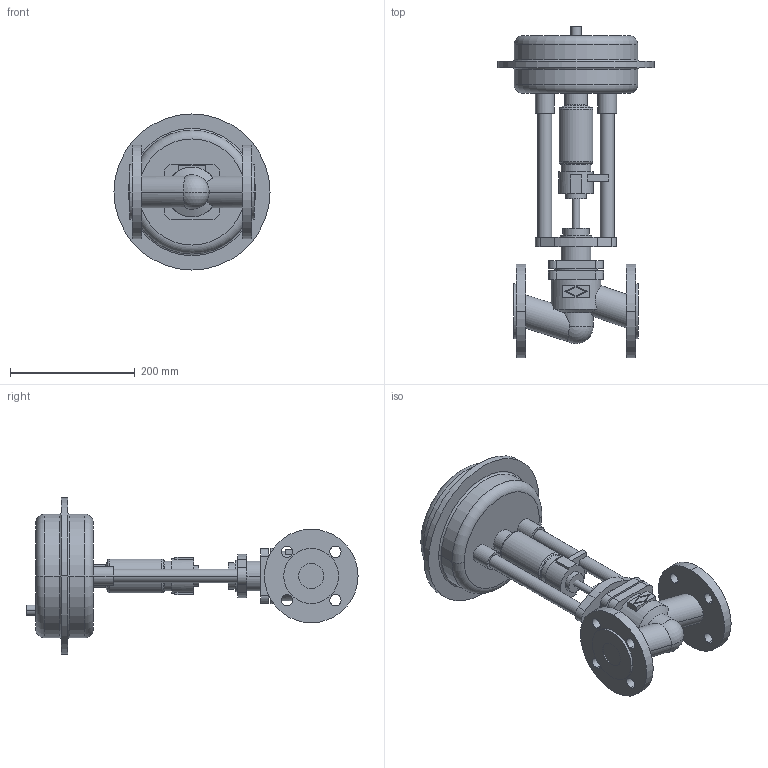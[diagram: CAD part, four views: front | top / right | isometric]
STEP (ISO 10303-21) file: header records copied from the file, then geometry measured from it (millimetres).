
FILE_DESCRIPTION(('OneSpaceDesigner STEP Export'),'2;1');
FILE_NAME('c000000359.stp','2005-02-14T13:59:20',(''),(''),'OneSpace Designer STEP processor (Jan. 2003) for AP203(Solid Model)','OneSpace Designer 12.01D 09-Jul-2004 (C) CoCreate Software GmbH','');
FILE_SCHEMA(('CONFIG_CONTROL_DESIGN'));
Length unit declared in the file: millimetre
Products named in the file (2): 1; 2
Bounding box: 250 x 532 x 250 mm (x, y, z)
Volume: 5058213.9 mm3; surface area: 387890.3 mm2
Topology: 2 solids, 2 shells, 181 faces, 438 edges, 286 vertices
Faces by surface type: cylinder 84, plane 73, torus 16, cone 6, sphere 2
Entity records: 5107 total; most frequent: CARTESIAN_POINT 1038, ORIENTED_EDGE 872, DIRECTION 727, EDGE_CURVE 436, VERTEX_POINT 286, AXIS2_PLACEMENT_3D 264, EDGE_LOOP 224, VECTOR 199
